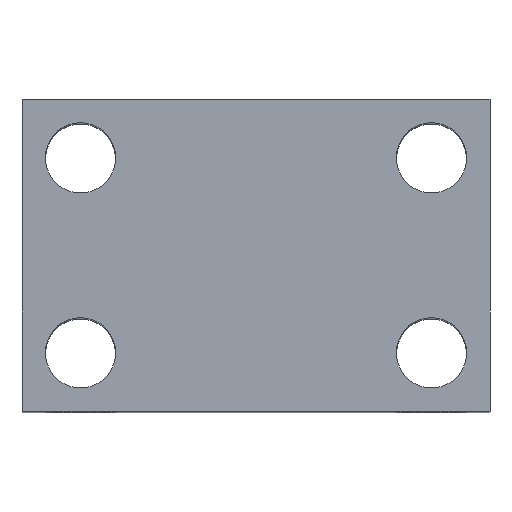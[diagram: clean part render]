
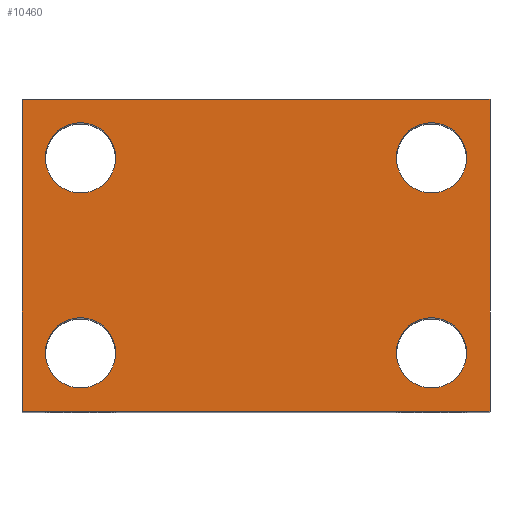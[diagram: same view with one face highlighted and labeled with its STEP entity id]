
A CAD part, top view. The second image highlights one B-rep face of the part: STEP entity #10460.
In plain terms, the highlighted planar face has unit normal (0, 0, 1).
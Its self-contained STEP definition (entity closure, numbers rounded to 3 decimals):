
#102 = VERTEX_POINT ( 'NONE', #11900 ) ;
#267 = EDGE_LOOP ( 'NONE', ( #2907, #3017 ) ) ;
#448 = CARTESIAN_POINT ( 'NONE',  ( 30., 40., 40. ) ) ;
#746 = EDGE_LOOP ( 'NONE', ( #9447, #7061 ) ) ;
#862 = ORIENTED_EDGE ( 'NONE', *, *, #5953, .T. ) ;
#1055 = DIRECTION ( 'NONE',  ( -1., 0., 0. ) ) ;
#1058 = CARTESIAN_POINT ( 'NONE',  ( 22.5, 7.5, 40. ) ) ;
#1126 = AXIS2_PLACEMENT_3D ( 'NONE', #8577, #3085, #9524 ) ;
#1288 = CARTESIAN_POINT ( 'NONE',  ( 22.5, 32.5, 40. ) ) ;
#1387 = AXIS2_PLACEMENT_3D ( 'NONE', #8570, #3076, #9517 ) ;
#1426 = EDGE_LOOP ( 'NONE', ( #3709, #9984 ) ) ;
#1485 = ORIENTED_EDGE ( 'NONE', *, *, #4850, .F. ) ;
#1556 = CIRCLE ( 'NONE', #10202, 4.5 ) ;
#1713 = DIRECTION ( 'NONE',  ( 0., 0., -1. ) ) ;
#1892 = VERTEX_POINT ( 'NONE', #4479 ) ;
#2125 = DIRECTION ( 'NONE',  ( -1., 0., 0. ) ) ;
#2144 = VERTEX_POINT ( 'NONE', #448 ) ;
#2184 = CARTESIAN_POINT ( 'NONE',  ( -30., 40., 40. ) ) ;
#2230 = LINE ( 'NONE', #12418, #4865 ) ;
#2341 = DIRECTION ( 'NONE',  ( -1., 0., 0. ) ) ;
#2371 = VERTEX_POINT ( 'NONE', #11717 ) ;
#2415 = ORIENTED_EDGE ( 'NONE', *, *, #5984, .T. ) ;
#2514 = CIRCLE ( 'NONE', #1126, 4.5 ) ;
#2907 = ORIENTED_EDGE ( 'NONE', *, *, #6011, .T. ) ;
#3017 = ORIENTED_EDGE ( 'NONE', *, *, #8006, .T. ) ;
#3076 = DIRECTION ( 'NONE',  ( 0., 0., -1. ) ) ;
#3085 = DIRECTION ( 'NONE',  ( 0., 0., -1. ) ) ;
#3152 = ORIENTED_EDGE ( 'NONE', *, *, #6014, .T. ) ;
#3166 = DIRECTION ( 'NONE',  ( 0., 0., -1. ) ) ;
#3220 = DIRECTION ( 'NONE',  ( 1., 0., 0. ) ) ;
#3468 = CARTESIAN_POINT ( 'NONE',  ( -27., 32.5, 40. ) ) ;
#3618 = CARTESIAN_POINT ( 'NONE',  ( -30., 0., 40. ) ) ;
#3661 = VECTOR ( 'NONE', #6223, 1000. ) ;
#3709 = ORIENTED_EDGE ( 'NONE', *, *, #6032, .T. ) ;
#3943 = VERTEX_POINT ( 'NONE', #4735 ) ;
#3944 = CARTESIAN_POINT ( 'NONE',  ( -30., 40., 40. ) ) ;
#3979 = LINE ( 'NONE', #6187, #11316 ) ;
#4081 = DIRECTION ( 'NONE',  ( 0., -1., 0. ) ) ;
#4285 = CIRCLE ( 'NONE', #9536, 4.5 ) ;
#4479 = CARTESIAN_POINT ( 'NONE',  ( -27., 7.5, 40. ) ) ;
#4664 = CARTESIAN_POINT ( 'NONE',  ( 27., 7.5, 40. ) ) ;
#4677 = FACE_BOUND ( 'NONE', #1426, .T. ) ;
#4735 = CARTESIAN_POINT ( 'NONE',  ( 30., 0., 40. ) ) ;
#4850 = EDGE_CURVE ( 'NONE', #6303, #2144, #9851, .T. ) ;
#4865 = VECTOR ( 'NONE', #4081, 1000. ) ;
#4897 = CARTESIAN_POINT ( 'NONE',  ( -30., 40., 40. ) ) ;
#4957 = FACE_BOUND ( 'NONE', #267, .T. ) ;
#5005 = VERTEX_POINT ( 'NONE', #4664 ) ;
#5057 = DIRECTION ( 'NONE',  ( 1., 0., 0. ) ) ;
#5093 = CARTESIAN_POINT ( 'NONE',  ( 18., 32.5, 40. ) ) ;
#5095 = CARTESIAN_POINT ( 'NONE',  ( 22.5, 7.5, 40. ) ) ;
#5474 = VERTEX_POINT ( 'NONE', #10236 ) ;
#5770 = DIRECTION ( 'NONE',  ( 0., 0., -1. ) ) ;
#5953 = EDGE_CURVE ( 'NONE', #5474, #1892, #11939, .T. ) ;
#5984 = EDGE_CURVE ( 'NONE', #6303, #9908, #2230, .T. ) ;
#6011 = EDGE_CURVE ( 'NONE', #6077, #2371, #9372, .T. ) ;
#6014 = EDGE_CURVE ( 'NONE', #1892, #5474, #9082, .T. ) ;
#6032 = EDGE_CURVE ( 'NONE', #102, #5005, #4285, .T. ) ;
#6046 = EDGE_CURVE ( 'NONE', #8297, #12476, #1556, .T. ) ;
#6060 = EDGE_CURVE ( 'NONE', #9908, #3943, #3979, .T. ) ;
#6077 = VERTEX_POINT ( 'NONE', #3468 ) ;
#6081 = LINE ( 'NONE', #7997, #3661 ) ;
#6093 = EDGE_CURVE ( 'NONE', #2144, #3943, #6081, .T. ) ;
#6110 = DIRECTION ( 'NONE',  ( -1., 0., 0. ) ) ;
#6187 = CARTESIAN_POINT ( 'NONE',  ( -30., 0., 40. ) ) ;
#6223 = DIRECTION ( 'NONE',  ( 0., -1., 0. ) ) ;
#6303 = VERTEX_POINT ( 'NONE', #3944 ) ;
#6732 = FACE_OUTER_BOUND ( 'NONE', #10035, .T. ) ;
#6813 = DIRECTION ( 'NONE',  ( 0., 0., -1. ) ) ;
#7061 = ORIENTED_EDGE ( 'NONE', *, *, #9909, .T. ) ;
#7262 = EDGE_CURVE ( 'NONE', #5005, #102, #9664, .T. ) ;
#7374 = VECTOR ( 'NONE', #3220, 1000. ) ;
#7389 = CARTESIAN_POINT ( 'NONE',  ( 22.5, 32.5, 40. ) ) ;
#7663 = AXIS2_PLACEMENT_3D ( 'NONE', #12507, #6813, #1055 ) ;
#7729 = DIRECTION ( 'NONE',  ( 0., 0., -1. ) ) ;
#7915 = DIRECTION ( 'NONE',  ( 0., 0., -1. ) ) ;
#7965 = AXIS2_PLACEMENT_3D ( 'NONE', #1058, #7729, #2125 ) ;
#7997 = CARTESIAN_POINT ( 'NONE',  ( 30., 40., 40. ) ) ;
#8006 = EDGE_CURVE ( 'NONE', #2371, #6077, #2514, .T. ) ;
#8295 = DIRECTION ( 'NONE',  ( -1., 0., 0. ) ) ;
#8297 = VERTEX_POINT ( 'NONE', #5093 ) ;
#8305 = CIRCLE ( 'NONE', #9304, 4.5 ) ;
#8570 = CARTESIAN_POINT ( 'NONE',  ( -22.5, 7.5, 40. ) ) ;
#8577 = CARTESIAN_POINT ( 'NONE',  ( -22.5, 32.5, 40. ) ) ;
#8648 = CARTESIAN_POINT ( 'NONE',  ( -22.5, 7.5, 40. ) ) ;
#8894 = AXIS2_PLACEMENT_3D ( 'NONE', #8648, #3166, #9605 ) ;
#9082 = CIRCLE ( 'NONE', #8894, 4.5 ) ;
#9179 = FACE_BOUND ( 'NONE', #746, .T. ) ;
#9304 = AXIS2_PLACEMENT_3D ( 'NONE', #7389, #1713, #8295 ) ;
#9372 = CIRCLE ( 'NONE', #7663, 4.5 ) ;
#9447 = ORIENTED_EDGE ( 'NONE', *, *, #6046, .T. ) ;
#9517 = DIRECTION ( 'NONE',  ( -1., 0., 0. ) ) ;
#9524 = DIRECTION ( 'NONE',  ( -1., 0., 0. ) ) ;
#9536 = AXIS2_PLACEMENT_3D ( 'NONE', #5095, #11527, #6110 ) ;
#9595 = EDGE_LOOP ( 'NONE', ( #3152, #862 ) ) ;
#9605 = DIRECTION ( 'NONE',  ( -1., 0., 0. ) ) ;
#9664 = CIRCLE ( 'NONE', #7965, 4.5 ) ;
#9720 = AXIS2_PLACEMENT_3D ( 'NONE', #4897, #5770, #12323 ) ;
#9826 = ORIENTED_EDGE ( 'NONE', *, *, #6093, .F. ) ;
#9851 = LINE ( 'NONE', #2184, #7374 ) ;
#9887 = ORIENTED_EDGE ( 'NONE', *, *, #6060, .T. ) ;
#9908 = VERTEX_POINT ( 'NONE', #3618 ) ;
#9909 = EDGE_CURVE ( 'NONE', #12476, #8297, #8305, .T. ) ;
#9984 = ORIENTED_EDGE ( 'NONE', *, *, #7262, .T. ) ;
#10035 = EDGE_LOOP ( 'NONE', ( #9887, #9826, #1485, #2415 ) ) ;
#10202 = AXIS2_PLACEMENT_3D ( 'NONE', #1288, #7915, #2341 ) ;
#10236 = CARTESIAN_POINT ( 'NONE',  ( -18., 7.5, 40. ) ) ;
#10388 = PLANE ( 'NONE',  #9720 ) ;
#10460 = ADVANCED_FACE ( 'NONE', ( #4957, #11726, #4677, #9179, #6732 ), #10388, .F. ) ;
#11316 = VECTOR ( 'NONE', #5057, 1000. ) ;
#11348 = CARTESIAN_POINT ( 'NONE',  ( 27., 32.5, 40. ) ) ;
#11527 = DIRECTION ( 'NONE',  ( 0., 0., -1. ) ) ;
#11717 = CARTESIAN_POINT ( 'NONE',  ( -18., 32.5, 40. ) ) ;
#11726 = FACE_BOUND ( 'NONE', #9595, .T. ) ;
#11900 = CARTESIAN_POINT ( 'NONE',  ( 18., 7.5, 40. ) ) ;
#11939 = CIRCLE ( 'NONE', #1387, 4.5 ) ;
#12323 = DIRECTION ( 'NONE',  ( -1., 0., 0. ) ) ;
#12418 = CARTESIAN_POINT ( 'NONE',  ( -30., 40., 40. ) ) ;
#12476 = VERTEX_POINT ( 'NONE', #11348 ) ;
#12507 = CARTESIAN_POINT ( 'NONE',  ( -22.5, 32.5, 40. ) ) ;
